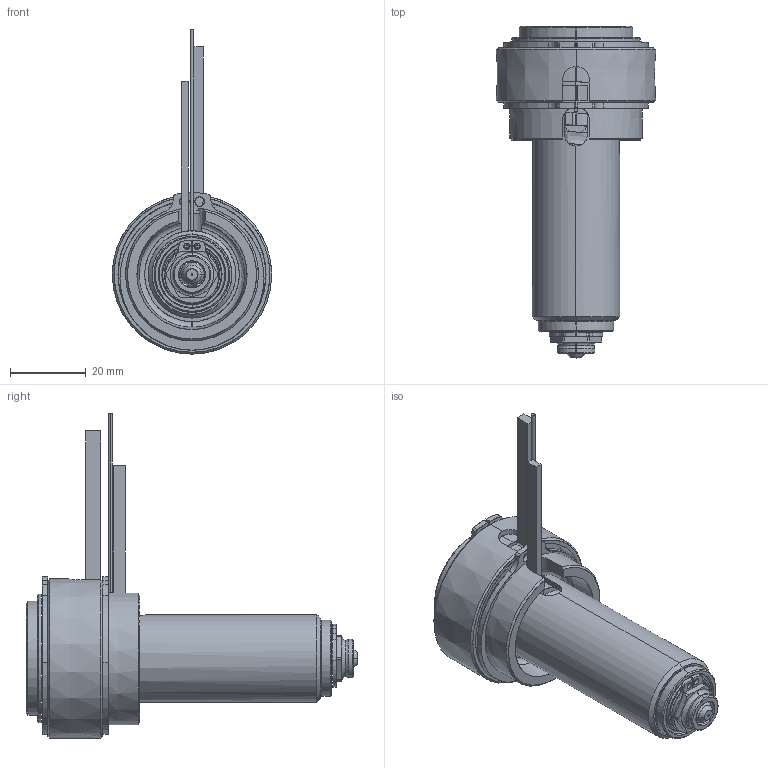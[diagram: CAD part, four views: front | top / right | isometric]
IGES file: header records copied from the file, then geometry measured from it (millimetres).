
Start section: SolidWorks IGES file using analytic representation for surfaces
Global section: file name: C:\Documents and Settings\ws-20\Desktop\TEM\UGER3551-M-A-1 [Øb-0.50  ØC-7.0].IGS; native system: SolidWorks 2012; preprocessor: SolidWorks 2012; author: ws-20; date: 120410.100136; units: millimetre
Bounding box: 42 x 87.4 x 85.4 mm (x, y, z)
Surface area: 30511.7 mm2 (no closed solid volume)
Topology: 0 solids, 0 shells, 202 faces, 3366 edges, 3366 vertices
Faces by surface type: revolution 128, bspline 74
